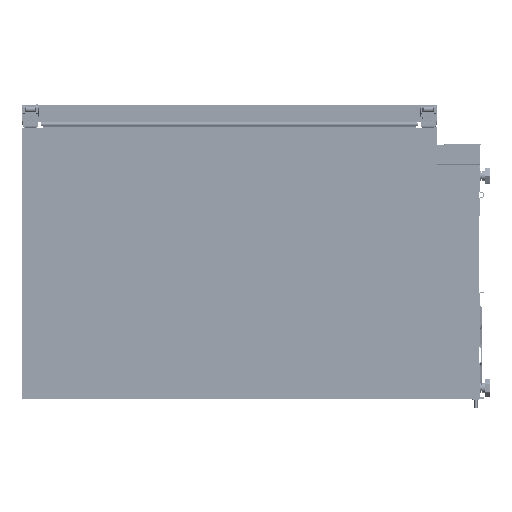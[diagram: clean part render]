
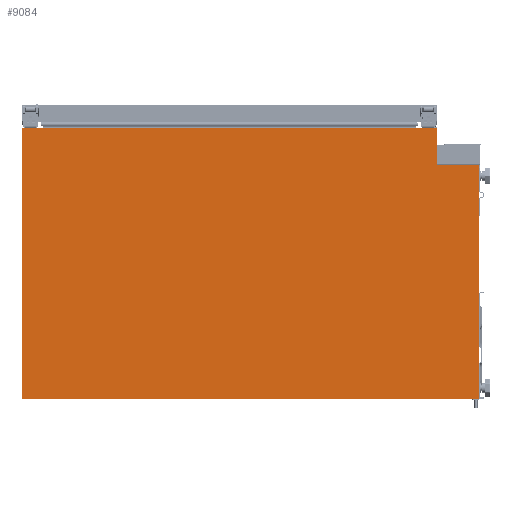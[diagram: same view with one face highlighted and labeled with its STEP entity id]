
A CAD part, left-side view. The second image highlights one B-rep face of the part: STEP entity #9084.
In plain terms, the highlighted planar face has unit normal (-1, 0, 0).
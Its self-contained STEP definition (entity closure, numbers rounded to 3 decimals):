
#1176=DIRECTION('',(0.,0.,-1.));
#1177=VECTOR('',#1176,69.5);
#1178=CARTESIAN_POINT('',(-297.,-779.6,0.));
#1179=LINE('',#1178,#1177);
#1180=CARTESIAN_POINT('',(-297.,-779.6,-69.5));
#1459=DIRECTION('',(0.,0.,-1.));
#1460=VECTOR('',#1459,439.2);
#1461=CARTESIAN_POINT('',(-297.,-859.6,-70.));
#1462=LINE('',#1461,#1460);
#2484=DIRECTION('',(0.,-1.,0.));
#2485=VECTOR('',#2484,779.2);
#2486=CARTESIAN_POINT('',(-297.,-0.4,0.));
#2487=LINE('',#2486,#2485);
#2488=DIRECTION('',(0.,0.,-1.));
#2489=VECTOR('',#2488,509.2);
#2490=CARTESIAN_POINT('',(-297.,-0.4,0.));
#2491=LINE('',#2490,#2489);
#2492=DIRECTION('',(0.,0.,-1.));
#2493=VECTOR('',#2492,0.5);
#2494=CARTESIAN_POINT('',(-297.,-779.6,-69.5));
#2495=LINE('',#2494,#2493);
#2496=DIRECTION('',(0.,1.,0.));
#2497=VECTOR('',#2496,0.5);
#2498=CARTESIAN_POINT('',(-297.,-780.1,-70.));
#2499=LINE('',#2498,#2497);
#2500=DIRECTION('',(0.,-1.,0.));
#2501=VECTOR('',#2500,79.5);
#2502=CARTESIAN_POINT('',(-297.,-780.1,-70.));
#2503=LINE('',#2502,#2501);
#2678=DIRECTION('',(0.,1.,0.));
#2679=VECTOR('',#2678,859.2);
#2680=CARTESIAN_POINT('',(-297.,-859.6,-509.2));
#2681=LINE('',#2680,#2679);
#3237=CARTESIAN_POINT('',(-297.,-0.4,0.));
#3238=VERTEX_POINT('',#3237);
#3240=CARTESIAN_POINT('',(-297.,-0.4,-509.2));
#3242=VERTEX_POINT('',#3240);
#3243=CARTESIAN_POINT('',(-297.,-859.6,-509.2));
#3245=VERTEX_POINT('',#3243);
#3416=CARTESIAN_POINT('',(-297.,-779.6,0.));
#3418=VERTEX_POINT('',#3416);
#3435=CARTESIAN_POINT('',(-297.,-859.6,-70.));
#3437=VERTEX_POINT('',#3435);
#3443=CARTESIAN_POINT('',(-297.,-779.6,-70.));
#3445=VERTEX_POINT('',#3443);
#3563=VERTEX_POINT('',#1180);
#3565=CARTESIAN_POINT('',(-297.,-780.1,-70.));
#3567=VERTEX_POINT('',#3565);
#9065=CARTESIAN_POINT('',(-297.,-0.4,0.));
#9066=DIRECTION('',(1.,0.,0.));
#9067=DIRECTION('',(0.,-1.,0.));
#9068=AXIS2_PLACEMENT_3D('',#9065,#9066,#9067);
#9069=PLANE('',#9068);
#9071=ORIENTED_EDGE('',*,*,#9070,.T.);
#9072=ORIENTED_EDGE('',*,*,#6877,.T.);
#9074=ORIENTED_EDGE('',*,*,#9073,.T.);
#9076=ORIENTED_EDGE('',*,*,#9075,.F.);
#9077=ORIENTED_EDGE('',*,*,#9051,.T.);
#9078=ORIENTED_EDGE('',*,*,#6307,.T.);
#9079=ORIENTED_EDGE('',*,*,#6349,.T.);
#9081=ORIENTED_EDGE('',*,*,#9080,.F.);
#9082=EDGE_LOOP('',(#9071,#9072,#9074,#9076,#9077,#9078,#9079,#9081));
#9083=FACE_OUTER_BOUND('',#9082,.F.);
#9084=ADVANCED_FACE('',(#9083),#9069,.F.);
#6307=EDGE_CURVE('',#3418,#3563,#1179,.T.);
#6349=EDGE_CURVE('',#3563,#3445,#2495,.T.);
#6877=EDGE_CURVE('',#3437,#3245,#1462,.T.);
#9051=EDGE_CURVE('',#3238,#3418,#2487,.T.);
#9070=EDGE_CURVE('',#3567,#3437,#2503,.T.);
#9073=EDGE_CURVE('',#3245,#3242,#2681,.T.);
#9075=EDGE_CURVE('',#3238,#3242,#2491,.T.);
#9080=EDGE_CURVE('',#3567,#3445,#2499,.T.);
